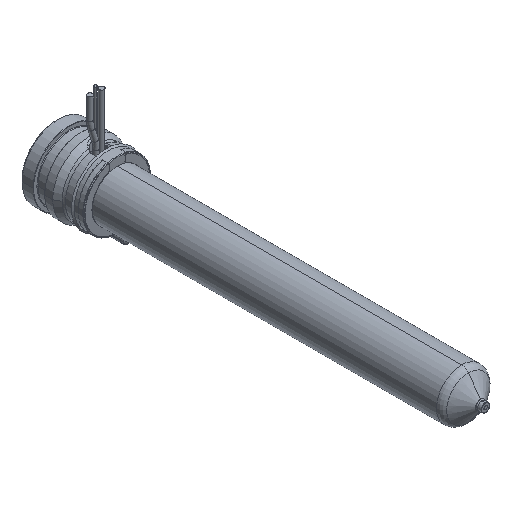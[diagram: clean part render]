
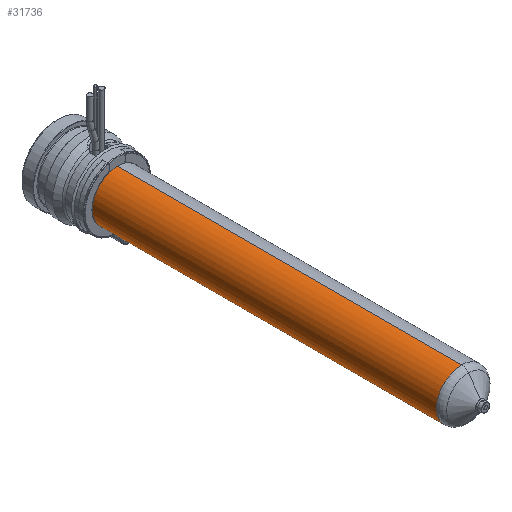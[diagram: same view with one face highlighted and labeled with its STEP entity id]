
A CAD part, isometric view. The second image highlights one B-rep face of the part: STEP entity #31736.
In plain terms, the highlighted cylindrical face has radius 9 mm (diameter 18 mm), a partial arc.
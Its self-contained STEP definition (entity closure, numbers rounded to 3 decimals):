
#31300=CARTESIAN_POINT('',(0.,-145.471,0.));
#31301=DIRECTION('',(0.,-1.,0.));
#31302=DIRECTION('',(0.,0.,1.));
#31303=AXIS2_PLACEMENT_3D('',#31300,#31301,#31302);
#31332=DIRECTION('',(0.,-1.,0.));
#31333=VECTOR('',#31332,123.471);
#31334=CARTESIAN_POINT('',(0.,-22.,9.));
#31335=LINE('',#31334,#31333);
#31347=DIRECTION('',(0.,-1.,0.));
#31348=VECTOR('',#31347,123.471);
#31349=CARTESIAN_POINT('',(0.,-22.,-9.));
#31350=LINE('',#31349,#31348);
#31354=CARTESIAN_POINT('',(0.,-22.,0.));
#31355=DIRECTION('',(0.,-1.,0.));
#31356=DIRECTION('',(0.,0.,1.));
#31357=AXIS2_PLACEMENT_3D('',#31354,#31355,#31356);
#31552=CARTESIAN_POINT('',(0.,-22.,9.));
#31553=CARTESIAN_POINT('',(0.,-145.471,9.));
#31554=VERTEX_POINT('',#31552);
#31555=VERTEX_POINT('',#31553);
#31564=CARTESIAN_POINT('',(0.,-22.,-9.));
#31565=CARTESIAN_POINT('',(0.,-145.471,-9.));
#31566=VERTEX_POINT('',#31564);
#31567=VERTEX_POINT('',#31565);
#31724=CARTESIAN_POINT('',(0.,-11.2,0.));
#31725=DIRECTION('',(0.,-1.,0.));
#31726=DIRECTION('',(0.,0.,1.));
#31727=AXIS2_PLACEMENT_3D('',#31724,#31725,#31726);
#31728=CYLINDRICAL_SURFACE('',#31727,9.);
#31729=ORIENTED_EDGE('',*,*,#31714,.T.);
#31730=ORIENTED_EDGE('',*,*,#31691,.T.);
#31731=ORIENTED_EDGE('',*,*,#31718,.F.);
#31733=ORIENTED_EDGE('',*,*,#31732,.F.);
#31734=EDGE_LOOP('',(#31729,#31730,#31731,#31733));
#31735=FACE_OUTER_BOUND('',#31734,.F.);
#31736=ADVANCED_FACE('',(#31735),#31728,.T.);
#31304=CIRCLE('',#31303,9.);
#31358=CIRCLE('',#31357,9.);
#31691=EDGE_CURVE('',#31555,#31567,#31304,.T.);
#31714=EDGE_CURVE('',#31554,#31555,#31335,.T.);
#31718=EDGE_CURVE('',#31566,#31567,#31350,.T.);
#31732=EDGE_CURVE('',#31554,#31566,#31358,.T.);
